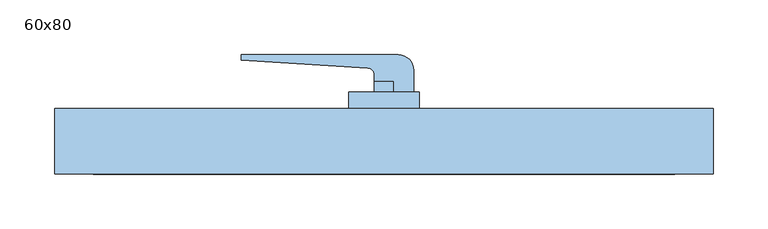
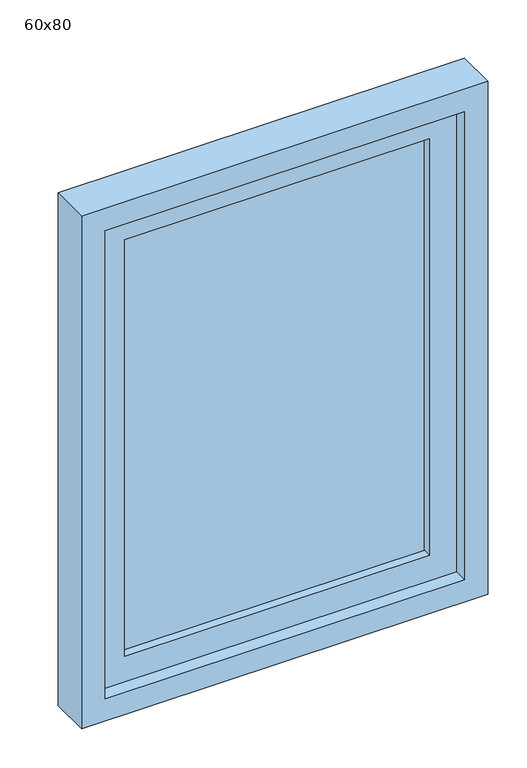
"""IFC4 building model written with IfcOpenShell, lengths in millimetres: window geometry, Janela Maxim-ar : 60x80."""

from ifc_helpers import new_model, si_unit, point, frame, frame_2d, origin, place, context, project, spatial, polyline, circle_curve, trimmed, segment, composite_curve, outline, extrude, source, transform, mapped, element, save


def window_60x80_6d4336cf(model_context):
    return source(origin(), model_context, "Body", "SweptSolid", [
        extrude(outline(composite_curve([segment(polyline([(9.0, 95.0), (-9.0, 95.0), (-9.0, 100.9630874)]), True, "CONTINUOUS"), segment(trimmed(circle_curve(frame_2d((-15.0369126, 100.9630874)), 6.0369126), [point((-9.0, 100.9630874))], [point((-14.6705919, 106.9888756))], True, "CARTESIAN"), True, "CONTINUOUS"), segment(polyline([(-14.6705919, 106.9888756), (-130.0, 114.0), (-130.0, 119.0), (13.0, 119.0)]), True, "CONTINUOUS"), segment(trimmed(circle_curve(frame_2d((13.0, 105.0)), 14.0), [point((13.0, 119.0))], [point((27.0, 105.0))], False, "CARTESIAN"), True, "CONTINUOUS"), segment(polyline([(27.0, 105.0), (27.0, 85.0), (9.0, 85.0), (9.0, 95.0)]), True, "CONTINUOUS")], self_intersect=False)), frame((0.0, 0.0, 707.0), z_axis=(0.0, 0.0, 1.0), x_axis=(1.0, 0.0, 0.0)), (0.0, 0.0, 1.0), 16.0),
        extrude(outline(polyline([(723.0, 9.0), (723.0, -9.0), (703.0135985, -9.0), (685.0, -6.9842809), (685.0, 7.0348924), (703.0135985, 9.0), (723.0, 9.0)])), frame((0.0, 85.0, 0.0), z_axis=(0.0, 1.0, 0.0), x_axis=(0.0, 0.0, 1.0)), (0.0, 0.0, 1.0), 10.0),
        extrude(outline(polyline([(32.0, 85.0), (32.0, 70.0), (-32.0, 70.0), (-32.0, 85.0), (32.0, 85.0)])), frame((0.0, 0.0, 705.0), z_axis=(0.0, 0.0, 1.0), x_axis=(1.0, 0.0, 0.0)), (0.0, 0.0, 1.0), 20.0),
        extrude(outline(polyline([(225.0, 43.0), (-225.0, 43.0), (-225.0, 57.0), (225.0, 57.0), (225.0, 43.0)])), frame((0.0, 0.0, 725.0), z_axis=(0.0, 0.0, 1.0), x_axis=(1.0, 0.0, 0.0)), (0.0, 0.0, 1.0), 650.0),
        extrude(outline(polyline([(1415.0, -265.0), (685.0, -265.0), (685.0, 265.0), (1415.0, 265.0), (1415.0, -265.0)]), holes=[polyline([(725.0, -225.0), (1375.0, -225.0), (1375.0, 225.0), (725.0, 225.0), (725.0, -225.0)])]), frame((0.0, 30.0, 0.0), z_axis=(0.0, 1.0, 0.0), x_axis=(0.0, 0.0, 1.0)), (0.0, 0.0, 1.0), 40.0),
        extrude(outline(polyline([(1450.0, -300.0), (650.0, -300.0), (650.0, 300.0), (1450.0, 300.0), (1450.0, -300.0)]), holes=[polyline([(685.0, -265.0), (1415.0, -265.0), (1415.0, 265.0), (685.0, 265.0), (685.0, -265.0)])]), frame((0.0, 10.0, 0.0), z_axis=(0.0, 1.0, 0.0), x_axis=(0.0, 0.0, 1.0)), (0.0, 0.0, 1.0), 60.0),
    ])


if __name__ == "__main__":
    model = new_model("IFC4")
    model_context = context("Model", 3, world=origin())
    ifc_project = project(units=[si_unit("LENGTHUNIT", "METRE", prefix="MILLI")], contexts=[model_context])
    site = spatial("IfcSite", under=ifc_project)
    building = spatial("IfcBuilding", under=site)
    placement = place(None, origin())
    window_60x80_shape = window_60x80_6d4336cf(model_context)
    element("IfcWindow", 1, ObjectType="Janela Maxim-ar : 60x80", at=placement, inside=building, context=model_context, shape_type="MappedRepresentation", body=[
        mapped(window_60x80_shape, transform((0.0, 0.0, 0.0), x_axis=(1.0, 0.0, 0.0), y_axis=(0.0, 1.0, 0.0), z_axis=(0.0, 0.0, 1.0))),
    ])
    save(model, "model.ifc")
